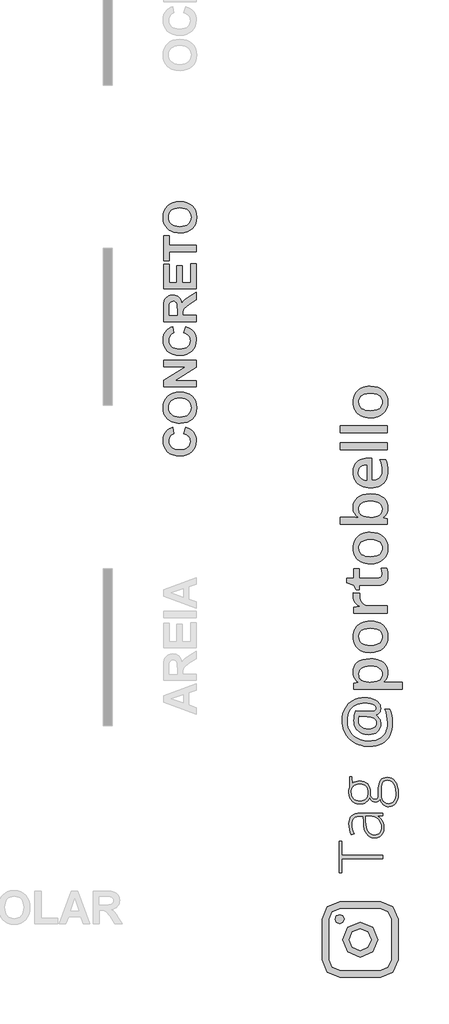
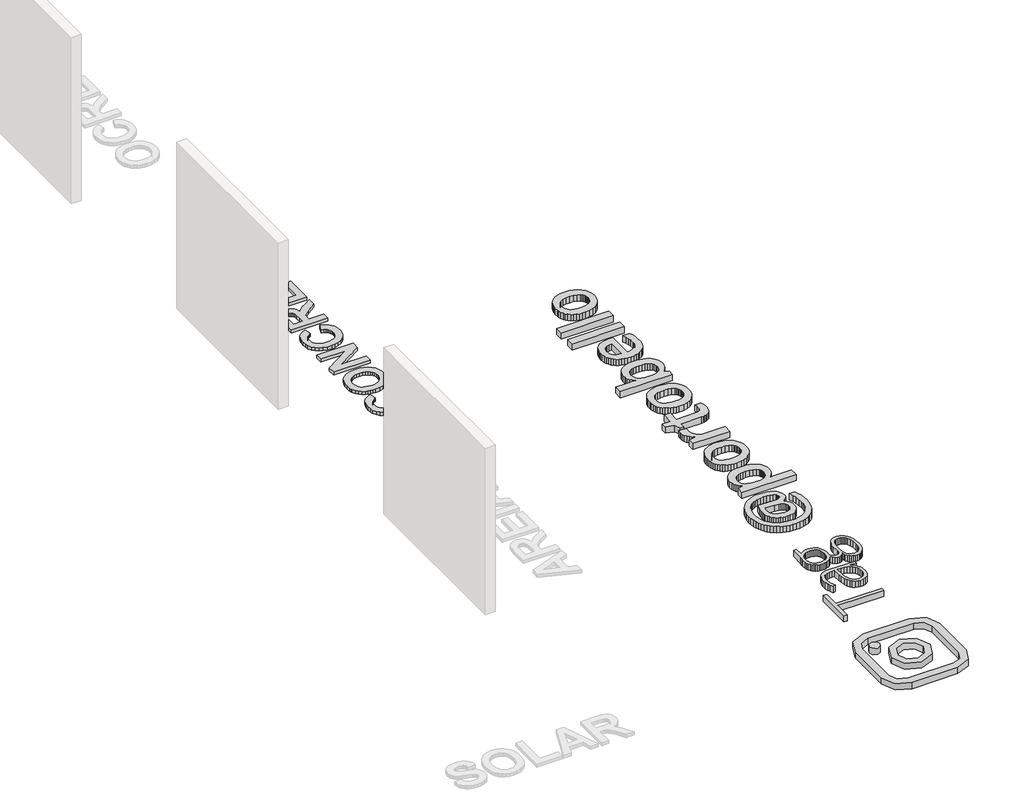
# One storey, part 3 of 6: 4 proxies.
"""IFC4 building model written with IfcOpenShell, lengths in millimetres."""

from ifc_helpers import new_model, si_unit, origin, origin_with_axes, place, context, project, spatial, polyline, outline, extrude, transform, mapped, element, save
from components import generic_models_d67f6705

model = new_model("IFC4")

# Units and contexts
model_context = context("Model", 3, world=origin())
ifc_project = project(units=[si_unit("LENGTHUNIT", "METRE", prefix="MILLI")], contexts=[model_context])

# Site, building, storey
site = spatial("IfcSite", under=ifc_project)
building = spatial("IfcBuilding", under=site)
storey = spatial("IfcBuildingStorey", under=building, Name="PORTOBELLO - SHOWROOM", Elevation=0.0)

# Proxies
placement = place(None, origin())
generic_models_shape = generic_models_d67f6705(model_context)
element("IfcBuildingElementProxy", 1, Name="Blks_Instagram1 : Único 2", ObjectType="Blks_Instagram1 : Único 2", at=placement, inside=storey, context=model_context, shape_type="MappedRepresentation", body=[
    mapped(generic_models_shape, transform((-14569.4048077, -12968.2161352, 0.0), x_axis=(-1.0, 0.0, 0.0), y_axis=(0.0, -1.0, 0.0), z_axis=(0.0, 0.0, 1.0))),
])
element("IfcBuildingElementProxy", 2, Name="550mm Arial", ObjectType="550mm Arial", at=placement, inside=storey, context=model_context, shape_type="SweptSolid", body=[
    extrude(outline(polyline([(-17597.170101, -4281.3912986), (-17561.5419949, -4174.5069805), (-17519.2814595, -4189.2679414), (-17482.8226689, -4208.2214675), (-17452.165623, -4231.3675589), (-17427.310322, -4258.7062154), (-17408.100197, -4290.1243597), (-17394.3786791, -4325.5089142), (-17386.1457683, -4364.859879), (-17383.4014648, -4408.177254), (-17388.0898313, -4461.6976975), (-17402.1549307, -4510.2253351), (-17425.5967632, -4553.7601668), (-17458.4153286, -4592.3021926), (-17499.3667747, -4623.8421126), (-17547.2072491, -4646.3706269), (-17601.9367519, -4659.8877355), (-17663.5552829, -4664.3934384), (-17728.5313454, -4659.8485933), (-17785.8181389, -4646.2140581), (-17835.4156635, -4623.4898328), (-17877.3239191, -4591.6759173), (-17910.6295875, -4552.4510774), (-17934.4193507, -4507.4940789), (-17948.6932086, -4456.8049217), (-17953.4511613, -4400.3836058), (-17949.5282424, -4351.0470293), (-17937.7594856, -4306.5814829), (-17918.1448911, -4266.9869666), (-17890.6844588, -4232.2634805), (-17870.1478479, -4214.1971777), (-17845.5578441, -4198.5489934), (-17816.9144473, -4185.3189277), (-17784.2176576, -4174.5069805), (-17766.4036046, -4281.3912986), (-17785.9790569, -4288.1281072), (-17803.3712439, -4297.7614391), (-17818.5801656, -4310.2912942), (-17831.6058221, -4325.7176727), (-17842.0480929, -4343.5012818), (-17849.5068578, -4363.1028289), (-17853.9821167, -4384.522314), (-17855.4738697, -4407.7597371), (-17852.7643592, -4439.521463), (-17844.6358277, -4468.1431141), (-17831.0882751, -4493.6246904), (-17812.1217016, -4515.966192), (-17787.0924352, -4534.1412231), (-17755.3568041, -4547.1233882), (-17716.9148084, -4554.9126873), (-17671.766448, -4557.5091203), (-17623.9781632, -4554.9909717), (-17583.6008028, -4547.4365259), (-17550.6343668, -4534.8457828), (-17525.0788552, -4517.2187426), (-17505.9600619, -4495.5557059), (-17492.3037811, -4470.8569738), (-17484.1100125, -4443.122546), (-17481.3787564, -4412.3524227), (-17483.1227591, -4389.4455337), (-17488.3547673, -4368.1826174), (-17497.0747811, -4348.5636738), (-17509.2828003, -4330.5887028), (-17525.2397731, -4314.6491265), (-17545.2066475, -4301.1363671), (-17569.1834234, -4290.0504244), (-17597.170101, -4281.3912986)])), origin_with_axes(), (0.0, 0.0, 1.0), 50.0),
    extrude(outline(polyline([(-17660.4934925, -4103.2507684), (-17701.5667144, -4101.6763819), (-17739.1954221, -4096.9532223), (-17773.3796156, -4089.0812897), (-17804.119295, -4078.0605841), (-17844.6706207, -4055.8452074), (-17880.8728124, -4026.7755955), (-17910.4991135, -3992.7305743), (-17931.3227673, -3955.5889696), (-17941.0039396, -3928.8504935), (-17947.9190628, -3900.1288124), (-17953.4511613, -3836.7358346), (-17948.6540664, -3778.8923519), (-17934.2627819, -3727.1376569), (-17910.2773077, -3681.4717495), (-17876.6976438, -3641.8946298), (-17834.5762806, -3609.9284946), (-17784.9657087, -3587.0955409), (-17727.8659279, -3573.3957687), (-17663.2769383, -3568.829178), (-17599.1272113, -3573.3609756), (-17542.3710121, -3586.9563686), (-17493.0083408, -3609.615357), (-17451.0391973, -3641.3379406), (-17417.5508652, -3680.6541123), (-17393.630628, -3726.0938647), (-17379.2784857, -3777.6571979), (-17374.4944383, -3835.3441117), (-17379.25674, -3893.6399044), (-17393.5436453, -3945.6381509), (-17417.3551542, -3991.3388514), (-17450.6912666, -4030.7420058), (-17492.3777163, -4062.4645894), (-17541.2402372, -4085.1235778), (-17597.2788293, -4098.7189708), (-17660.4934925, -4103.2507684)]), holes=[polyline([(-17664.3903166, -3996.3664503), (-17620.0030546, -3993.5264658), (-17581.3392531, -3985.0065122), (-17548.3989119, -3970.8065896), (-17521.1820311, -3950.9266979), (-17499.8712743, -3926.6715774), (-17484.6493051, -3899.3459682), (-17475.5161237, -3868.9498704), (-17472.4717298, -3835.483284), (-17475.494378, -3802.0514907), (-17484.5623225, -3771.7597721), (-17499.6755632, -3744.6081283), (-17520.8341003, -3720.5965593), (-17548.0379337, -3700.9602191), (-17581.2870634, -3686.9342619), (-17620.5814895, -3678.5186875), (-17665.9212118, -3675.7134961), (-17710.6303097, -3678.4447522), (-17749.285413, -3686.6385208), (-17781.8865218, -3700.2948016), (-17808.4336359, -3719.4135949), (-17829.0137382, -3743.0554875), (-17843.7138112, -3770.2810666), (-17852.5338551, -3801.0903321), (-17855.4738697, -3835.483284), (-17852.499062, -3869.9110291), (-17843.5746389, -3900.8246738), (-17828.7006005, -3928.2242182), (-17807.8769468, -3952.1096624), (-17781.0601863, -3971.4720071), (-17748.2068278, -3985.3022533), (-17709.3168712, -3993.6004011), (-17664.3903166, -3996.3664503)])]), origin_with_axes(), (0.0, 0.0, 1.0), 50.0),
    extrude(outline(polyline([(-17383.4014648, -3479.7589129), (-17944.5441347, -3479.7589129), (-17944.5441347, -3367.7252201), (-17566.8305419, -3132.3848791), (-17944.5441347, -3132.3848791), (-17944.5441347, -3025.500561), (-17383.4014648, -3025.500561), (-17383.4014648, -3141.013561), (-17755.548166, -3372.8745948), (-17383.4014648, -3372.8745948), (-17383.4014648, -3479.7589129)])), origin_with_axes(), (0.0, 0.0, 1.0), 50.0),
    extrude(outline(polyline([(-17597.170101, -2553.4281561), (-17561.5419949, -2446.543838), (-17519.2814595, -2461.3047989), (-17482.8226689, -2480.2583251), (-17452.165623, -2503.4044164), (-17427.310322, -2530.743073), (-17408.100197, -2562.1612172), (-17394.3786791, -2597.5457718), (-17386.1457683, -2636.8967365), (-17383.4014648, -2680.2141115), (-17388.0898313, -2733.734555), (-17402.1549307, -2782.2621926), (-17425.5967632, -2825.7970243), (-17458.4153286, -2864.3390501), (-17499.3667747, -2895.8789702), (-17547.2072491, -2918.4074845), (-17601.9367519, -2931.9245931), (-17663.5552829, -2936.4302959), (-17728.5313454, -2931.8854509), (-17785.8181389, -2918.2509157), (-17835.4156635, -2895.5266903), (-17877.3239191, -2863.7127748), (-17910.6295875, -2824.487935), (-17934.4193507, -2779.5309364), (-17948.6932086, -2728.8417792), (-17953.4511613, -2672.4204634), (-17949.5282424, -2623.0838868), (-17937.7594856, -2578.6183404), (-17918.1448911, -2539.0238242), (-17890.6844588, -2504.300338), (-17870.1478479, -2486.2340352), (-17845.5578441, -2470.585851), (-17816.9144473, -2457.3557852), (-17784.2176576, -2446.543838), (-17766.4036046, -2553.4281561), (-17785.9790569, -2560.1649647), (-17803.3712439, -2569.7982966), (-17818.5801656, -2582.3281518), (-17831.6058221, -2597.7545302), (-17842.0480929, -2615.5381393), (-17849.5068578, -2635.1396864), (-17853.9821167, -2656.5591715), (-17855.4738697, -2679.7965947), (-17852.7643592, -2711.5583206), (-17844.6358277, -2740.1799716), (-17831.0882751, -2765.661548), (-17812.1217016, -2788.0030495), (-17787.0924352, -2806.1780807), (-17755.3568041, -2819.1602458), (-17716.9148084, -2826.9495448), (-17671.766448, -2829.5459778), (-17623.9781632, -2827.0278292), (-17583.6008028, -2819.4733834), (-17550.6343668, -2806.8826404), (-17525.0788552, -2789.2556001), (-17505.9600619, -2767.5925635), (-17492.3037811, -2742.8938313), (-17484.1100125, -2715.1594035), (-17481.3787564, -2684.3892802), (-17483.1227591, -2661.4823912), (-17488.3547673, -2640.2194749), (-17497.0747811, -2620.6005313), (-17509.2828003, -2602.6255603), (-17525.2397731, -2586.6859841), (-17545.2066475, -2573.1732246), (-17569.1834234, -2562.087282), (-17597.170101, -2553.4281561)])), origin_with_axes(), (0.0, 0.0, 1.0), 50.0),
    extrude(outline(polyline([(-17383.4014648, -2357.4735729), (-17944.5441347, -2357.4735729), (-17944.5441347, -2121.4373705), (-17940.7516899, -2044.5446807), (-17929.3743552, -1992.0071415), (-17920.3107599, -1972.8361587), (-17908.2897534, -1955.6831741), (-17893.3113358, -1940.5481876), (-17875.375507, -1927.4311994), (-17855.256413, -1916.8367089), (-17833.7281995, -1909.2692156), (-17810.7908666, -1904.7287197), (-17786.4444142, -1903.2152211), (-17756.0961569, -1905.4028355), (-17728.5139489, -1911.9656787), (-17703.6977901, -1922.9037508), (-17681.6476805, -1938.2170518), (-17662.8942145, -1957.888185), (-17647.9679865, -1981.899754), (-17636.8689964, -2010.2517588), (-17629.5972443, -2042.9441994), (-17607.2600919, -2011.943572), (-17582.8353552, -1986.8577668), (-17547.4508006, -1960.9021349), (-17492.2341949, -1927.2920271), (-17383.4014648, -1858.6800885), (-17383.4014648, -1983.5176319), (-17511.5791431, -2064.7942488), (-17587.6367991, -2128.6047434), (-17600.8407701, -2146.3144172), (-17609.1389178, -2165.0678831), (-17613.5228449, -2189.9623264), (-17614.984154, -2226.0949319), (-17614.984154, -2250.5892548), (-17383.4014648, -2250.5892548), (-17383.4014648, -2357.4735729)]), holes=[polyline([(-17712.9614455, -2250.5892548), (-17712.9614455, -2162.4931958), (-17714.5793234, -2092.9592408), (-17719.432957, -2055.5392916), (-17728.2356043, -2036.507481), (-17741.7005233, -2022.1379422), (-17759.4623867, -2013.1091399), (-17781.1558672, -2010.0995391), (-17805.1804837, -2014.0659494), (-17824.0905185, -2025.9651801), (-17837.4336617, -2045.1013699), (-17844.7576034, -2070.7786572), (-17846.5668432, -2157.6221657), (-17846.5668432, -2250.5892548), (-17712.9614455, -2250.5892548)])]), origin_with_axes(), (0.0, 0.0, 1.0), 50.0),
    extrude(outline(polyline([(-17383.4014648, -1796.330903), (-17944.5441347, -1796.330903), (-17944.5441347, -1377.7006571), (-17846.5668432, -1377.7006571), (-17846.5668432, -1689.4465849), (-17721.8684721, -1689.4465849), (-17721.8684721, -1395.5147101), (-17623.8911805, -1395.5147101), (-17623.8911805, -1689.4465849), (-17481.3787564, -1689.4465849), (-17481.3787564, -1368.7936306), (-17383.4014648, -1368.7936306), (-17383.4014648, -1796.330903)])), origin_with_axes(), (0.0, 0.0, 1.0), 50.0),
    extrude(outline(polyline([(-17383.4014648, -1155.0249944), (-17846.5668432, -1155.0249944), (-17846.5668432, -1315.3514716), (-17944.5441347, -1315.3514716), (-17944.5441347, -887.8141992), (-17846.5668432, -887.8141992), (-17846.5668432, -1048.1406763), (-17383.4014648, -1048.1406763), (-17383.4014648, -1155.0249944)])), origin_with_axes(), (0.0, 0.0, 1.0), 50.0),
    extrude(outline(polyline([(-17660.4934925, -834.3720401), (-17701.5667144, -832.7976536), (-17739.1954221, -828.0744941), (-17773.3796156, -820.2025615), (-17804.119295, -809.1818558), (-17844.6706207, -786.9664791), (-17880.8728124, -757.8968672), (-17910.4991135, -723.851846), (-17931.3227673, -686.7102413), (-17941.0039396, -659.9717653), (-17947.9190628, -631.2500841), (-17953.4511613, -567.8571064), (-17948.6540664, -510.0136237), (-17934.2627819, -458.2589286), (-17910.2773077, -412.5930212), (-17876.6976438, -373.0159015), (-17834.5762806, -341.0497663), (-17784.9657087, -318.2168126), (-17727.8659279, -304.5170404), (-17663.2769383, -299.9504497), (-17599.1272113, -304.4822474), (-17542.3710121, -318.0776404), (-17493.0083408, -340.7366287), (-17451.0391973, -372.4592124), (-17417.5508652, -411.775384), (-17393.630628, -457.2151365), (-17379.2784857, -508.7784696), (-17374.4944383, -566.4653835), (-17379.25674, -624.7611761), (-17393.5436453, -676.7594226), (-17417.3551542, -722.4601231), (-17450.6912666, -761.8632775), (-17492.3777163, -793.5858611), (-17541.2402372, -816.2448495), (-17597.2788293, -829.8402425), (-17660.4934925, -834.3720401)]), holes=[polyline([(-17664.3903166, -727.4877221), (-17620.0030546, -724.6477375), (-17581.3392531, -716.1277839), (-17548.3989119, -701.9278613), (-17521.1820311, -682.0479696), (-17499.8712743, -657.7928491), (-17484.6493051, -630.46724), (-17475.5161237, -600.0711422), (-17472.4717298, -566.6045558), (-17475.494378, -533.1727624), (-17484.5623225, -502.8810439), (-17499.6755632, -475.7294001), (-17520.8341003, -451.717831), (-17548.0379337, -432.0814909), (-17581.2870634, -418.0555336), (-17620.5814895, -409.6399592), (-17665.9212118, -406.8347678), (-17710.6303097, -409.566024), (-17749.285413, -417.7597925), (-17781.8865218, -431.4160734), (-17808.4336359, -450.5348666), (-17829.0137382, -474.1767592), (-17843.7138112, -501.4023383), (-17852.5338551, -532.2116038), (-17855.4738697, -566.6045558), (-17852.499062, -601.0323008), (-17843.5746389, -631.9459455), (-17828.7006005, -659.34549), (-17807.8769468, -683.2309341), (-17781.0601863, -702.5932788), (-17748.2068278, -716.4235251), (-17709.3168712, -724.7216728), (-17664.3903166, -727.4877221)])]), origin_with_axes(), (0.0, 0.0, 1.0), 50.0),
])
element("IfcBuildingElementProxy", 3, Name="80mm OpenSans Bold", ObjectType="80mm OpenSans Bold", at=placement, inside=storey, context=model_context, shape_type="SweptSolid", body=[
    extrude(outline(polyline([(-14488.1035761, -8814.5685124), (-14437.8970063, -8817.4228655), (-14388.7119945, -8825.985925), (-14342.4113817, -8840.3778741), (-14300.8580089, -8860.7188961), (-14265.6142588, -8886.9488993), (-14238.2425143, -8919.0077922), (-14227.9893773, -8937.2981868), (-14220.665708, -8957.1960329), (-14214.8067726, -9001.8140796), (-14220.6356622, -9041.6848864), (-14227.9217742, -9058.8936314), (-14238.122331, -9074.284604), (-14264.2021051, -9098.2311248), (-14295.8103106, -9112.1423407), (-14295.8103106, -9118.872605), (-14264.6527925, -9143.5101796), (-14238.4828809, -9176.0798514), (-14228.1245835, -9195.3692696), (-14220.7257996, -9216.7018038), (-14216.2865293, -9240.0774539), (-14214.8067726, -9265.4962199), (-14218.4047598, -9307.0495927), (-14229.1987217, -9343.4951757), (-14247.188658, -9374.8329688), (-14272.3745689, -9401.062972), (-14303.4795069, -9421.7795668), (-14339.2265245, -9436.5771345), (-14379.6156217, -9445.4556751), (-14424.6467985, -9448.4151887), (-14460.3637703, -9446.6049278), (-14493.9625115, -9441.1741454), (-14525.4430223, -9432.1228413), (-14554.8053026, -9419.4510156), (-14581.598665, -9403.4215691), (-14605.3724222, -9384.297403), (-14626.1265743, -9362.0785171), (-14643.8611211, -9336.7649114), (-14658.0577724, -9308.7396703), (-14668.1982375, -9278.3858778), (-14674.2825166, -9245.7035342), (-14676.3106097, -9210.6926392), (-14674.1473104, -9162.3489105), (-14667.6574127, -9113.94509), (-14649.1491859, -9037.3883337), (-14424.1660653, -9047.7240968), (-14397.0046416, -9049.1662962), (-14381.3808138, -9049.4066628), (-14337.0932711, -9045.3805226), (-14321.5746036, -9040.3478473), (-14310.4726721, -9033.3021018), (-14297.1323268, -9015.815433), (-14292.6855451, -8995.5645485), (-14294.3455768, -8981.5932409), (-14299.3256719, -8968.7636746), (-14307.6258304, -8957.0758496), (-14319.2460524, -8946.5297658), (-14350.2533414, -8928.9830053), (-14390.154194, -8916.2435765), (-14436.8754484, -8908.4917542), (-14488.3439427, -8905.9078135), (-14535.1252887, -8908.2889449), (-14578.3612276, -8915.4323393), (-14618.0517594, -8927.3379965), (-14654.1968842, -8944.0059167), (-14686.5261894, -8964.8201604), (-14714.7692628, -8989.1647883), (-14738.9261043, -9017.0398003), (-14758.9967138, -9048.4451965), (-14774.7707708, -9082.772549), (-14786.0379543, -9119.4134298), (-14792.7982644, -9158.367839), (-14795.0517011, -9199.6357765), (-14793.3015319, -9241.9027376), (-14788.0510244, -9281.6909183), (-14779.3001785, -9319.0003187), (-14767.0489943, -9353.8309387), (-14751.6354873, -9386.0926409), (-14733.3976729, -9415.6952877), (-14712.3355511, -9442.6388792), (-14688.4491221, -9466.9234155), (-14661.9787522, -9488.4662704), (-14633.1648082, -9507.1848179), (-14602.0072901, -9523.0790581), (-14568.5061977, -9536.148991), (-14532.954478, -9546.3495478), (-14495.6450776, -9553.6356599), (-14415.753235, -9559.4645495), (-14366.5907575, -9557.2261357), (-14321.2591225, -9550.5108943), (-14279.7583299, -9539.3188253), (-14242.0883796, -9523.6499288), (-14208.4971498, -9503.6243879), (-14179.2325185, -9479.3623861), (-14154.2944856, -9450.8639232), (-14133.6830512, -9418.1289994), (-14117.5409329, -9381.3529123), (-14106.0108485, -9340.73096), (-14099.0927978, -9296.2631424), (-14096.7867809, -9247.9494594), (-14100.2120047, -9185.2738732), (-14110.4876761, -9122.7184703), (-14125.5706791, -9063.1676496), (-14143.4178978, -9009.5058102), (-14060.0106939, -9009.5058102), (-14041.7428337, -9060.4635256), (-14027.3208387, -9117.1900389), (-14017.9465421, -9179.1445254), (-14014.8217765, -9245.7861602), (-14017.78129, -9307.5228144), (-14026.6598306, -9364.6173891), (-14041.4573983, -9417.0698841), (-14062.1739931, -9464.8802995), (-14088.4715995, -9507.7106198), (-14120.0122019, -9545.2228295), (-14156.7958003, -9577.4169285), (-14198.8223949, -9604.292917), (-14245.671344, -9625.4827335), (-14296.9220061, -9640.6183167), (-14352.5743812, -9649.6996666), (-14412.6284694, -9652.7267832), (-14461.6482292, -9650.7662933), (-14508.7150105, -9644.8848235), (-14553.8288133, -9635.0823738), (-14596.9896377, -9621.3589443), (-14637.8219108, -9603.9398786), (-14675.9500598, -9583.0505203), (-14711.3740848, -9558.6908695), (-14744.0939858, -9530.8609262), (-14773.7116555, -9499.7634997), (-14799.8289869, -9465.6013993), (-14822.44598, -9428.3746249), (-14841.5626347, -9388.0831766), (-14856.7583095, -9344.967421), (-14867.612363, -9299.2677246), (-14874.1247951, -9250.9840875), (-14876.2956058, -9200.1165096), (-14873.3511151, -9145.4631581), (-14864.5176433, -9093.9946638), (-14849.7951901, -9045.7110266), (-14829.1837557, -9000.6122467), (-14803.1415389, -8959.4494696), (-14772.1267384, -8922.9738408), (-14736.1393542, -8891.1853603), (-14695.1793864, -8864.0840282), (-14649.6524535, -8842.42099), (-14599.9641741, -8826.9473913), (-14546.1145483, -8817.6632321), (-14488.1035761, -8814.5685124)]), holes=[polyline([(-14422.0027661, -9350.1052567), (-14390.6199043, -9348.4827823), (-14363.7739617, -9343.615359), (-14341.4649383, -9335.5029868), (-14323.6928341, -9324.1456659), (-14310.1271452, -9309.9940834), (-14300.4373673, -9293.4989267), (-14294.6235006, -9274.6601958), (-14292.6855451, -9253.4778908), (-14295.4873181, -9227.0000095), (-14303.892637, -9204.5332456), (-14317.9015018, -9186.077599), (-14337.5139126, -9171.6330697), (-14361.7083113, -9160.4935809), (-14389.4631401, -9151.9530558), (-14455.6540876, -9142.6688966), (-14589.0575405, -9136.4193654), (-14595.066705, -9168.027571), (-14597.4703708, -9206.8467739), (-14595.9004766, -9231.5219058), (-14591.1907939, -9253.6281199), (-14583.3413227, -9273.1654161), (-14572.352063, -9290.1337945), (-14543.4780274, -9317.2351266), (-14507.0925361, -9335.8034451), (-14465.749484, -9346.5298038), (-14422.0027661, -9350.1052567)])]), origin_with_axes(), (0.0, 0.0, 1.0), 100.0),
    extrude(outline(polyline([(-14691.6940709, -8374.457301), (-14686.9918997, -8325.8957401), (-14672.8853859, -8282.3668544), (-14649.3745296, -8243.870644), (-14616.4593308, -8210.4071089), (-14574.2599728, -8183.3283112), (-14522.8966388, -8163.9863128), (-14462.3693289, -8152.3811138), (-14392.6780431, -8148.5127141), (-14345.5737045, -8150.307952), (-14302.3302542, -8155.6936658), (-14262.947692, -8164.6698553), (-14227.4260181, -8177.2365207), (-14195.8929272, -8193.0256005), (-14168.4761139, -8211.6690335), (-14145.1755784, -8233.1668197), (-14125.9913206, -8257.518959), (-14111.0059665, -8284.3573901), (-14100.3021421, -8313.3140518), (-14093.8798475, -8344.3889439), (-14091.7390827, -8377.5820666), (-14094.5934358, -8418.2340648), (-14103.1564953, -8453.1773566), (-14116.3165657, -8482.9527669), (-14132.9619515, -8508.1011205), (-14152.1612322, -8529.1331965), (-14172.9829873, -8546.5597736), (-14172.9829873, -8553.7707711), (-14126.8326036, -8548.8432562), (-14080.6822199, -8546.5597736), (-13845.6037029, -8546.5597736), (-13845.6037029, -8668.9063638), (-14676.3106097, -8668.9063638), (-14676.3106097, -8569.3945989), (-14601.5566027, -8552.3285716), (-14601.5566027, -8546.5597736), (-14624.9622986, -8528.7125549), (-14646.6253368, -8507.3800208), (-14665.2537469, -8481.8410715), (-14679.5555585, -8451.3746072), (-14688.6594428, -8415.6801698), (-14691.6940709, -8374.457301)]), holes=[polyline([(-14592.182306, -8407.1471562), (-14587.1346078, -8452.3961652), (-14580.8249851, -8471.2799648), (-14571.9915132, -8487.6699611), (-14560.6341922, -8501.7839863), (-14546.7530221, -8513.8398727), (-14511.4191345, -8531.7772289), (-14465.8696673, -8542.3834043), (-14409.984437, -8546.5597736), (-14392.6780431, -8546.5597736), (-14333.1272225, -8543.2547331), (-14283.3112484, -8533.3396116), (-14243.7709457, -8515.7027137), (-14228.0569804, -8503.5717128), (-14215.0471392, -8489.2323439), (-14204.8465823, -8472.4141946), (-14197.5604703, -8452.8468525), (-14193.1888031, -8430.5303177), (-14191.7315807, -8405.4645901), (-14193.2714291, -8384.1771247), (-14197.8909744, -8364.7825461), (-14205.5902164, -8347.2808544), (-14216.3691554, -8331.6720495), (-14246.264749, -8306.0730085), (-14286.6763805, -8287.9253316), (-14336.432263, -8277.1088354), (-14394.3606092, -8273.5033367), (-14438.7232665, -8275.5539641), (-14477.8279047, -8281.7058463), (-14511.674524, -8291.9589833), (-14540.2631244, -8306.3133751), (-14562.9777664, -8324.9192508), (-14579.2025106, -8347.9268396), (-14588.9373572, -8375.3361414), (-14592.182306, -8407.1471562)])]), origin_with_axes(), (0.0, 0.0, 1.0), 100.0),
    extrude(outline(polyline([(-14392.6780431, -7499.5229432), (-14324.6242546, -7504.1800457), (-14264.6828383, -7518.1513533), (-14213.1542523, -7541.0462702), (-14170.3389549, -7572.4742008), (-14136.4773127, -7611.8342285), (-14111.8096923, -7658.5254371), (-14096.7567351, -7712.097139), (-14091.7390827, -7772.098647), (-14096.7567351, -7828.7350228), (-14111.8096923, -7880.3837921), (-14136.4773127, -7926.2637634), (-14170.3389549, -7965.5937454), (-14213.1542523, -7997.5625007), (-14264.6828383, -8021.3587923), (-14324.6242546, -8036.1413371), (-14392.6780431, -8041.068852), (-14438.7007321, -8039.0107132), (-14481.1028994, -8032.8362966), (-14519.8845451, -8022.5456023), (-14555.0456692, -8008.1386303), (-14586.4135081, -7989.9083274), (-14613.8152984, -7968.1476403), (-14637.2510401, -7942.856569), (-14656.7207333, -7914.0351135), (-14672.0215685, -7881.9987551), (-14682.9507365, -7847.0629747), (-14689.5082373, -7809.2277724), (-14691.6940709, -7768.4931483), (-14689.5082373, -7729.9969379), (-14682.9507365, -7693.8292788), (-14672.0215685, -7659.9901709), (-14656.7207333, -7628.4796143), (-14637.2360172, -7599.7933651), (-14613.7552068, -7574.4271792), (-14586.2783019, -7552.3810568), (-14554.8053026, -7533.6549978), (-14519.569064, -7518.7222239), (-14480.8024412, -7508.0559568), (-14438.5054342, -7501.6561966), (-14392.6780431, -7499.5229432)]), holes=[polyline([(-14392.6780431, -7915.5974963), (-14333.8182764, -7911.7816768), (-14284.1525314, -7900.3342184), (-14244.3718621, -7880.8344794), (-14228.4475761, -7867.9072642), (-14215.1673224, -7852.8618185), (-14204.7038647, -7835.6004933), (-14197.2299663, -7816.0256398), (-14192.7456272, -7794.1372579), (-14191.2508475, -7769.9353477), (-14192.7456272, -7745.7334375), (-14197.2299663, -7723.8450557), (-14204.7038647, -7704.2702022), (-14215.1673224, -7687.008877), (-14228.4475761, -7671.9784542), (-14244.3718621, -7659.0963077), (-14284.1525314, -7639.7768437), (-14333.8182764, -7628.5096602), (-14392.6780431, -7624.7539323), (-14451.5378098, -7628.5096602), (-14500.7228217, -7639.7768437), (-14539.812437, -7659.0963077), (-14555.4137305, -7671.9784542), (-14568.3860144, -7687.008877), (-14578.5865713, -7704.300248), (-14585.8726833, -7723.965239), (-14590.2443505, -7746.0038499), (-14591.7015729, -7770.4160809), (-14588.4866698, -7805.7124112), (-14578.8419608, -7835.8859286), (-14562.7674456, -7860.9366333), (-14540.2631244, -7880.8645253), (-14511.7496386, -7896.0602001), (-14477.6476298, -7906.9142536), (-14437.957098, -7913.4266856), (-14392.6780431, -7915.5974963)])]), origin_with_axes(), (0.0, 0.0, 1.0), 100.0),
    extrude(outline(polyline([(-14691.6940709, -7070.4685946), (-14690.1316881, -7038.8603891), (-14685.925273, -7009.4154828), (-14571.9915132, -7020.7127122), (-14576.6786615, -7047.3934028), (-14578.2410443, -7075.7566594), (-14575.5970119, -7107.4850482), (-14567.6649147, -7137.7712375), (-14554.3546152, -7165.653761), (-14535.575976, -7190.1711524), (-14511.3890887, -7210.5422202), (-14481.854045, -7225.9857731), (-14447.0609823, -7235.7206196), (-14407.100038, -7238.9655685), (-14107.1225439, -7238.9655685), (-14107.1225439, -7361.3121586), (-14676.3106097, -7361.3121586), (-14676.3106097, -7265.8866256), (-14579.9236104, -7249.3013315), (-14579.9236104, -7243.5325335), (-14609.1581959, -7224.3933445), (-14635.8088406, -7201.1078318), (-14658.6436659, -7173.8562706), (-14676.430793, -7142.8189357), (-14687.8782514, -7108.2662396), (-14691.6940709, -7070.4685946)])), origin_with_axes(), (0.0, 0.0, 1.0), 100.0),
    extrude(outline(polyline([(-14190.2893812, -6686.1224303), (-14194.6159797, -6639.0105802), (-14205.1921093, -6596.4656952), (-14112.8913419, -6596.4656952), (-14097.9886138, -6648.8656101), (-14093.3014655, -6681.6756485), (-14091.7390827, -6715.6875198), (-14095.8253146, -6761.9881327), (-14108.0840102, -6803.3011389), (-14117.7287193, -6821.7117168), (-14130.3179191, -6838.1242475), (-14145.8516094, -6852.5387309), (-14164.3297904, -6864.9551672), (-14186.2031493, -6874.9454032), (-14211.9223736, -6882.0812861), (-14241.4874632, -6886.3628158), (-14274.898418, -6887.7899924), (-14583.5291091, -6887.7899924), (-14583.5291091, -6966.1494981), (-14637.8519566, -6966.1494981), (-14680.8775747, -6882.0211945), (-14799.3782996, -6842.1203419), (-14799.3782996, -6765.4434023), (-14676.3106097, -6765.4434023), (-14676.3106097, -6601.2730269), (-14583.5291091, -6601.2730269), (-14583.5291091, -6765.4434023), (-14276.3406175, -6765.4434023), (-14238.3927434, -6760.0051084), (-14223.5876643, -6753.207241), (-14211.5618237, -6743.6902266), (-14202.2551301, -6731.9347985), (-14195.6074918, -6718.4216897), (-14190.2893812, -6686.1224303)])), origin_with_axes(), (0.0, 0.0, 1.0), 100.0),
    extrude(outline(polyline([(-14392.6780431, -5976.5602807), (-14324.6242546, -5981.2173832), (-14264.6828383, -5995.1886908), (-14213.1542523, -6018.0836077), (-14170.3389549, -6049.5115383), (-14136.4773127, -6088.8715661), (-14111.8096923, -6135.5627746), (-14096.7567351, -6189.1344765), (-14091.7390827, -6249.1359845), (-14096.7567351, -6305.7723603), (-14111.8096923, -6357.4211296), (-14136.4773127, -6403.3011009), (-14170.3389549, -6442.6310829), (-14213.1542523, -6474.5998383), (-14264.6828383, -6498.3961299), (-14324.6242546, -6513.1786746), (-14392.6780431, -6518.1061896), (-14438.7007321, -6516.0480507), (-14481.1028994, -6509.8736341), (-14519.8845451, -6499.5829399), (-14555.0456692, -6485.1759679), (-14586.4135081, -6466.9456649), (-14613.8152984, -6445.1849778), (-14637.2510401, -6419.8939065), (-14656.7207333, -6391.0724511), (-14672.0215685, -6359.0360926), (-14682.9507365, -6324.1003122), (-14689.5082373, -6286.2651099), (-14691.6940709, -6245.5304858), (-14689.5082373, -6207.0342754), (-14682.9507365, -6170.8666163), (-14672.0215685, -6137.0275084), (-14656.7207333, -6105.5169519), (-14637.2360172, -6076.8307026), (-14613.7552068, -6051.4645168), (-14586.2783019, -6029.4183943), (-14554.8053026, -6010.6923353), (-14519.569064, -5995.7595614), (-14480.8024412, -5985.0932944), (-14438.5054342, -5978.6935341), (-14392.6780431, -5976.5602807)]), holes=[polyline([(-14392.6780431, -6392.6348339), (-14333.8182764, -6388.8190144), (-14284.1525314, -6377.3715559), (-14244.3718621, -6357.871817), (-14228.4475761, -6344.9446017), (-14215.1673224, -6329.899156), (-14204.7038647, -6312.6378308), (-14197.2299663, -6293.0629773), (-14192.7456272, -6271.1745955), (-14191.2508475, -6246.9726853), (-14192.7456272, -6222.7707751), (-14197.2299663, -6200.8823932), (-14204.7038647, -6181.3075397), (-14215.1673224, -6164.0462145), (-14228.4475761, -6149.0157917), (-14244.3718621, -6136.1336452), (-14284.1525314, -6116.8141812), (-14333.8182764, -6105.5469977), (-14392.6780431, -6101.7912698), (-14451.5378098, -6105.5469977), (-14500.7228217, -6116.8141812), (-14539.812437, -6136.1336452), (-14555.4137305, -6149.0157917), (-14568.3860144, -6164.0462145), (-14578.5865713, -6181.3375855), (-14585.8726833, -6201.0025765), (-14590.2443505, -6223.0411875), (-14591.7015729, -6247.4534184), (-14588.4866698, -6282.7497487), (-14578.8419608, -6312.9232662), (-14562.7674456, -6337.9739709), (-14540.2631244, -6357.9018628), (-14511.7496386, -6373.0975376), (-14477.6476298, -6383.9515911), (-14437.957098, -6390.4640232), (-14392.6780431, -6392.6348339)])]), origin_with_axes(), (0.0, 0.0, 1.0), 100.0),
    extrude(outline(polyline([(-14907.0625282, -5716.4836392), (-14716.932562, -5716.4836392), (-14652.3941348, -5718.2863885), (-14602.9988022, -5721.771704), (-14602.9988022, -5716.4836392), (-14637.3712234, -5688.5710699), (-14665.9748467, -5651.4644788), (-14677.2270073, -5629.132921), (-14685.2642649, -5603.8418498), (-14690.0866194, -5575.5912649), (-14691.6940709, -5544.3811666), (-14686.9693653, -5495.8045827), (-14672.7952484, -5452.2306283), (-14649.1717203, -5413.6593033), (-14616.0987809, -5380.0906079), (-14573.7717282, -5352.9066498), (-14522.3858598, -5333.4895368), (-14461.941176, -5321.8392691), (-14392.4376765, -5317.9558465), (-14345.2432005, -5319.7360615), (-14301.9697043, -5325.0767065), (-14262.617188, -5333.9777815), (-14227.1856515, -5346.4392864), (-14195.757721, -5362.1232059), (-14168.4160223, -5380.6915243), (-14145.1605555, -5402.1442418), (-14125.9913206, -5426.4813582), (-14111.0059665, -5453.379881), (-14100.3021421, -5482.5168176), (-14093.8798475, -5513.892168), (-14091.7390827, -5547.5059321), (-14093.2413738, -5578.6183816), (-14097.7482472, -5606.5760196), (-14105.2597029, -5631.3788463), (-14115.7757409, -5653.0268616), (-14141.855515, -5688.8414823), (-14172.021521, -5716.002906), (-14172.021521, -5724.8964695), (-14107.1225439, -5747.0101951), (-14107.1225439, -5838.3494962), (-14907.0625282, -5838.3494962), (-14907.0625282, -5716.4836392)]), holes=[polyline([(-14592.6630392, -5576.5902885), (-14587.4050202, -5622.950993), (-14580.8324965, -5642.1427623), (-14571.6309633, -5658.6754762), (-14559.822955, -5672.8195473), (-14545.4310059, -5684.8453878), (-14508.8952854, -5702.5423774), (-14461.5731146, -5712.7579571), (-14403.0138061, -5716.4836392), (-14391.9569434, -5716.4836392), (-14346.1520866, -5714.5907523), (-14306.085982, -5708.9120918), (-14271.7586296, -5699.4476577), (-14243.1700292, -5686.1974499), (-14220.665708, -5667.9295896), (-14204.5911928, -5643.4121983), (-14194.9464837, -5612.6452758), (-14191.7315807, -5575.6288222), (-14194.9990639, -5545.5229078), (-14204.8015136, -5519.1426755), (-14221.1389297, -5496.4881251), (-14244.0113123, -5477.5592568), (-14272.9980197, -5462.6264829), (-14307.6784106, -5451.9602159), (-14348.0524849, -5445.5604556), (-14394.1202426, -5443.4272022), (-14440.4584127, -5445.5454327), (-14480.6822579, -5451.9001242), (-14514.7917781, -5462.4912767), (-14542.7869735, -5477.3188902), (-14564.6077522, -5496.2327357), (-14580.1940228, -5519.0825838), (-14589.5457851, -5545.8684348), (-14592.6630392, -5576.5902885)])]), origin_with_axes(), (0.0, 0.0, 1.0), 100.0),
    extrude(outline(polyline([(-14691.6940709, -4948.2720436), (-14689.733581, -4911.2931473), (-14683.8521112, -4877.0333979), (-14674.0496615, -4845.4927955), (-14660.326232, -4816.6713401), (-14643.0048152, -4790.7943753), (-14622.4084037, -4768.0872447), (-14598.5369976, -4748.5499485), (-14571.3905967, -4732.1824866), (-14541.1870334, -4719.2477599), (-14508.1441399, -4710.0086694), (-14472.2619161, -4704.4652151), (-14433.540362, -4702.617397), (-14368.6413849, -4702.617397), (-14368.6413849, -5085.5213619), (-14327.6363484, -5082.0060006), (-14291.6339413, -5073.3828495), (-14260.6341637, -5059.6519085), (-14234.6370156, -5040.8131776), (-14214.0781614, -5017.2722755), (-14199.3932655, -4989.4348208), (-14190.582328, -4957.3008134), (-14187.6453488, -4920.8702533), (-14190.2893812, -4868.6506134), (-14198.2214784, -4822.0795882), (-14211.3214571, -4777.6117705), (-14229.4691341, -4731.7017534), (-14130.6784689, -4731.7017534), (-14113.1918001, -4774.9376923), (-14101.1133794, -4819.0750059), (-14094.0826568, -4868.0797428), (-14091.7390827, -4925.9179515), (-14093.8122444, -4966.9304996), (-14100.0317297, -5005.3591068), (-14110.3975386, -5041.2037733), (-14124.909671, -5074.4644991), (-14143.5380811, -5104.6905968), (-14166.252723, -5131.431379), (-14193.0535969, -5154.6868458), (-14223.9407027, -5174.4569971), (-14258.8689716, -5190.2310541), (-14297.7933349, -5201.4982376), (-14340.7137927, -5208.2585477), (-14387.6303449, -5210.5119844), (-14434.3591107, -5208.4688685), (-14477.437309, -5202.3395206), (-14516.8649399, -5192.1239409), (-14552.6420033, -5177.8221293), (-14584.5732014, -5159.8321929), (-14612.4632364, -5138.552239), (-14636.3121082, -5113.9822674), (-14656.1198168, -5086.1222783), (-14671.683553, -5055.3778902), (-14682.8005074, -5022.1547217), (-14689.47068, -4986.4527729), (-14691.6940709, -4948.2720436)]), holes=[polyline([(-14600.1144032, -4948.2720436), (-14597.8158978, -4975.6287652), (-14590.9203815, -5000.251317), (-14579.4278543, -5022.1396988), (-14563.3383162, -5041.2939108), (-14542.8170193, -5057.2332198), (-14518.0292155, -5069.4768925), (-14488.974905, -5078.0249291), (-14455.6540876, -5082.8773295), (-14455.6540876, -4821.8392216), (-14495.5549401, -4825.6249953), (-14530.6484611, -4836.0208499), (-14559.7628633, -4853.2371063), (-14581.7263597, -4877.4840853), (-14595.5173924, -4909.062245), (-14600.1144032, -4948.2720436)])]), origin_with_axes(), (0.0, 0.0, 1.0), 100.0),
    extrude(outline(polyline([(-14107.1225439, -4439.1756233), (-14107.1225439, -4561.5222135), (-14907.0625282, -4561.5222135), (-14907.0625282, -4439.1756233), (-14107.1225439, -4439.1756233)])), origin_with_axes(), (0.0, 0.0, 1.0), 100.0),
    extrude(outline(polyline([(-14107.1225439, -4146.8898598), (-14107.1225439, -4269.23645), (-14907.0625282, -4269.23645), (-14907.0625282, -4146.8898598), (-14107.1225439, -4146.8898598)])), origin_with_axes(), (0.0, 0.0, 1.0), 100.0),
    extrude(outline(polyline([(-14392.6780431, -3469.0560991), (-14324.6242546, -3473.7132016), (-14264.6828383, -3487.6845091), (-14213.1542523, -3510.5794261), (-14170.3389549, -3542.0073566), (-14136.4773127, -3581.3673844), (-14111.8096923, -3628.0585929), (-14096.7567351, -3681.6302949), (-14091.7390827, -3741.6318028), (-14096.7567351, -3798.2681787), (-14111.8096923, -3849.916948), (-14136.4773127, -3895.7969193), (-14170.3389549, -3935.1269012), (-14213.1542523, -3967.0956566), (-14264.6828383, -3990.8919482), (-14324.6242546, -4005.674493), (-14392.6780431, -4010.6020079), (-14438.7007321, -4008.5438691), (-14481.1028994, -4002.3694525), (-14519.8845451, -3992.0787582), (-14555.0456692, -3977.6717862), (-14586.4135081, -3959.4414833), (-14613.8152984, -3937.6807962), (-14637.2510401, -3912.3897249), (-14656.7207333, -3883.5682694), (-14672.0215685, -3851.5319109), (-14682.9507365, -3816.5961306), (-14689.5082373, -3778.7609283), (-14691.6940709, -3738.0263041), (-14689.5082373, -3699.5300937), (-14682.9507365, -3663.3624346), (-14672.0215685, -3629.5233268), (-14656.7207333, -3598.0127702), (-14637.2360172, -3569.326521), (-14613.7552068, -3543.9603351), (-14586.2783019, -3521.9142127), (-14554.8053026, -3503.1881537), (-14519.569064, -3488.2553798), (-14480.8024412, -3477.5891127), (-14438.5054342, -3471.1893525), (-14392.6780431, -3469.0560991)]), holes=[polyline([(-14392.6780431, -3885.1306522), (-14333.8182764, -3881.3148327), (-14284.1525314, -3869.8673743), (-14244.3718621, -3850.3676353), (-14228.4475761, -3837.4404201), (-14215.1673224, -3822.3949743), (-14204.7038647, -3805.1336492), (-14197.2299663, -3785.5587957), (-14192.7456272, -3763.6704138), (-14191.2508475, -3739.4685036), (-14192.7456272, -3715.2665934), (-14197.2299663, -3693.3782115), (-14204.7038647, -3673.803358), (-14215.1673224, -3656.5420329), (-14228.4475761, -3641.5116101), (-14244.3718621, -3628.6294636), (-14284.1525314, -3609.3099996), (-14333.8182764, -3598.042816), (-14392.6780431, -3594.2870882), (-14451.5378098, -3598.042816), (-14500.7228217, -3609.3099996), (-14539.812437, -3628.6294636), (-14555.4137305, -3641.5116101), (-14568.3860144, -3656.5420329), (-14578.5865713, -3673.8334039), (-14585.8726833, -3693.4983948), (-14590.2443505, -3715.5370058), (-14591.7015729, -3739.9492368), (-14588.4866698, -3775.245567), (-14578.8419608, -3805.4190845), (-14562.7674456, -3830.4697892), (-14540.2631244, -3850.3976811), (-14511.7496386, -3865.593356), (-14477.6476298, -3876.4474094), (-14437.957098, -3882.9598415), (-14392.6780431, -3885.1306522)])]), origin_with_axes(), (0.0, 0.0, 1.0), 100.0),
])
element("IfcBuildingElementProxy", 4, Name="80mm OpenSans Light", ObjectType="80mm OpenSans Light", at=placement, inside=storey, context=model_context, shape_type="SweptSolid", body=[
    extrude(outline(polyline([(-14177.691823, -11522.5843897), (-14177.691823, -11576.426504), (-14883.4081072, -11576.426504), (-14883.4081072, -11822.0811507), (-14931.4814236, -11822.0811507), (-14931.4814236, -11276.9297431), (-14883.4081072, -11276.9297431), (-14883.4081072, -11522.5843897), (-14177.691823, -11522.5843897)])), origin_with_axes(), (0.0, 0.0, 1.0), 100.0),
    extrude(outline(polyline([(-14762.26335, -10983.2017801), (-14759.2888135, -10939.830635), (-14750.3652042, -10902.2583336), (-14735.4925219, -10870.4848761), (-14714.6707668, -10844.5102623), (-14687.344091, -10824.3194695), (-14652.9566469, -10809.8974746), (-14611.5084344, -10801.2442776), (-14562.9994537, -10798.3598786), (-14177.691823, -10798.3598786), (-14177.691823, -10838.7414644), (-14271.1944233, -10848.1157611), (-14271.1944233, -10851.2405266), (-14241.238738, -10871.2510446), (-14214.8284599, -10895.2276111), (-14192.8649635, -10924.0716009), (-14176.2496235, -10958.6843887), (-14165.7936772, -11000.327899), (-14162.3083617, -11050.2640564), (-14167.0556017, -11100.6509011), (-14181.2973217, -11143.1657403), (-14204.642926, -11177.3578865), (-14236.7018188, -11202.7766526), (-14276.9932671, -11218.5507095), (-14325.0365376, -11223.8087285), (-14366.3946126, -11219.4671071), (-14402.4946686, -11206.4422429), (-14433.3367057, -11184.734136), (-14458.9207237, -11154.3427863), (-14479.3669061, -11115.8240416), (-14494.7954361, -11069.7337495), (-14505.2063136, -11016.0719101), (-14510.5995388, -10954.8385234), (-14516.1279702, -10850.0386937), (-14557.2306557, -10850.0386937), (-14597.3944092, -10852.1794586), (-14631.3537004, -10858.6017532), (-14659.1085291, -10869.3055776), (-14680.6588955, -10884.2909316), (-14696.8010137, -10903.4526551), (-14708.3310982, -10926.6855875), (-14715.2491489, -10953.9897289), (-14717.5551658, -10985.3650793), (-14714.7909501, -11028.0301476), (-14706.498303, -11069.0126498), (-14692.9776828, -11109.5144188), (-14674.5295476, -11150.7372876), (-14718.0358989, -11167.3225817), (-14735.5826594, -11125.4387049), (-14749.7642877, -11080.5502457), (-14759.1385844, -11033.0177542), (-14762.26335, -10983.2017801)]), holes=[polyline([(-14475.0252847, -10850.5194269), (-14470.6986862, -10949.0697254), (-14466.0716295, -10999.569242), (-14457.7188908, -11043.6239296), (-14445.6404701, -11081.2337882), (-14429.8363673, -11112.3988178), (-14409.9760785, -11136.848606), (-14385.7290996, -11154.3127405), (-14357.0954305, -11164.7912212), (-14324.0750713, -11168.2840481), (-14297.3643349, -11166.1958634), (-14273.958639, -11159.9313094), (-14253.8579836, -11149.490386), (-14237.0623687, -11134.8730932), (-14223.8121609, -11116.5301184), (-14214.3477267, -11094.912149), (-14208.6690662, -11070.0191848), (-14206.7761794, -11041.851226), (-14210.2840292, -10998.2021571), (-14220.8075786, -10960.0364507), (-14238.3468276, -10927.3541071), (-14262.9017762, -10900.155126), (-14293.5259811, -10878.7099201), (-14329.2729986, -10863.2889016), (-14370.142829, -10853.8920705), (-14416.1354722, -10850.5194269), (-14475.0252847, -10850.5194269)])]), origin_with_axes(), (0.0, 0.0, 1.0), 100.0),
    extrude(outline(polyline([(-13916.1729819, -10461.8466641), (-13918.7794571, -10512.0006537), (-13926.5988824, -10556.2205933), (-13939.631258, -10594.5064829), (-13957.8765839, -10626.8583225), (-13980.7940352, -10652.5700353), (-14007.8427871, -10670.9355444), (-14039.0228396, -10681.9548499), (-14074.3341928, -10685.6279518), (-14102.2993423, -10683.3970494), (-14128.2664446, -10676.7043424), (-14152.2354997, -10665.5498307), (-14174.2065075, -10649.9335144), (-14193.0827957, -10630.4863556), (-14207.7676915, -10607.8393167), (-14218.2611951, -10581.9923977), (-14224.5633064, -10552.9455986), (-14238.5045682, -10575.1494616), (-14256.7724284, -10592.7262679), (-14278.8260623, -10604.1737263), (-14304.124645, -10607.9895458), (-14333.3592305, -10603.4526266), (-14360.4906085, -10589.8418689), (-14385.5788704, -10567.1572727), (-14408.6841081, -10535.3988381), (-14419.1475659, -10558.4965643), (-14432.7508121, -10578.9953269), (-14449.4938468, -10596.8951258), (-14469.37667, -10612.195961), (-14491.9185485, -10624.4471452), (-14516.6387492, -10633.1979911), (-14543.537272, -10638.4484986), (-14572.6141169, -10640.1986678), (-14600.5116633, -10638.6738423), (-14626.5163229, -10634.0993658), (-14650.6280956, -10626.4752383), (-14672.8469815, -10615.8014597), (-14692.9251026, -10602.3259082), (-14710.6145807, -10586.2964618), (-14725.9154159, -10567.7131205), (-14738.8276083, -10546.5758842), (-14749.0807453, -10523.132631), (-14756.4044146, -10497.6312389), (-14762.26335, -10440.4540383), (-14761.1817004, -10406.6825335), (-14757.8165682, -10378.4394602), (-14751.927587, -10355.1239017), (-14751.927587, -10173.1663993), (-14714.4304002, -10173.1663993), (-14706.7386696, -10289.2634583), (-14677.7444507, -10269.2829862), (-14646.5268408, -10255.0112204), (-14613.3262067, -10246.4481609), (-14578.3829149, -10243.5938078), (-14537.9262146, -10246.8988483), (-14501.8862502, -10256.8139698), (-14470.2630218, -10273.3391723), (-14443.0565293, -10296.4744558), (-14421.1831704, -10325.4987205), (-14405.5593426, -10359.6908668), (-14396.1850459, -10399.0508946), (-14393.0602803, -10443.5788039), (-14397.6272454, -10494.5365192), (-14378.0373689, -10522.2988594), (-14358.2071259, -10542.6098356), (-14335.9131255, -10555.0488062), (-14308.9319767, -10559.1951297), (-14292.1363618, -10556.611189), (-14278.7659706, -10548.8593667), (-14268.4602534, -10536.1800295), (-14260.8586603, -10518.813544), (-14256.1715119, -10496.940185), (-14254.6091292, -10470.7402276), (-14254.6091292, -10371.7091959), (-14252.2430206, -10328.4957913), (-14245.144695, -10290.675612), (-14233.3141523, -10258.2486578), (-14216.7513925, -10231.2149288), (-14195.576599, -10209.919952), (-14169.9099549, -10194.7092542), (-14139.7514603, -10185.5828355), (-14105.1011153, -10182.540696), (-14062.6764136, -10187.0926381), (-14025.2994101, -10200.7484646), (-13992.9701048, -10223.5081753), (-13965.6884978, -10255.3717703), (-13944.0254596, -10295.588104), (-13928.5518609, -10343.4060309), (-13919.2677017, -10398.8255509), (-13916.1729819, -10461.8466641)]), holes=[polyline([(-13960.1600664, -10458.2411653), (-13964.2763441, -10390.1873769), (-13976.6251773, -10334.572559), (-13996.9661993, -10291.3065743), (-14010.0436436, -10274.2705928), (-14025.0590435, -10260.2992852), (-14041.9898646, -10249.4151859), (-14060.8135726, -10241.6408293), (-14081.5301673, -10236.9762153), (-14104.1396489, -10235.421344), (-14138.4820243, -10239.9582632), (-14164.1111111, -10253.5690209), (-14182.1085589, -10275.4724257), (-14193.5560174, -10304.8872861), (-14199.6853652, -10341.0023651), (-14201.7284812, -10383.0064252), (-14201.7284812, -10477.4704919), (-14198.6037156, -10519.9853311), (-14189.2294189, -10557.6327469), (-14173.1248579, -10588.9104484), (-14149.8092995, -10612.3161443), (-14118.3212773, -10626.9184141), (-14077.6993249, -10631.7858374), (-14050.5904814, -10629.0141103), (-14026.9519303, -10620.6989288), (-14006.7836718, -10606.8402931), (-13990.0857059, -10587.4382031), (-13976.9932386, -10562.7330253), (-13967.6414763, -10532.9651265), (-13962.0304189, -10498.1345065), (-13960.1600664, -10458.2411653)]), polyline([(-14435.1244321, -10441.6558712), (-14437.3628459, -10408.718138), (-14444.0780873, -10379.8516138), (-14455.2701563, -10355.0562986), (-14470.9390528, -10334.3321924), (-14490.8594333, -10317.9797534), (-14514.805954, -10306.2994398), (-14542.778615, -10299.2912517), (-14574.7774162, -10296.9551889), (-14608.8118219, -10299.3513433), (-14638.3243312, -10306.5398064), (-14663.3149443, -10318.5205782), (-14683.783661, -10335.2936587), (-14699.7154585, -10356.3783148), (-14711.0953139, -10381.2938133), (-14717.9232271, -10410.0401542), (-14720.1991982, -10442.6173375), (-14717.7805094, -10474.2330545), (-14710.5244432, -10502.2582956), (-14698.4309996, -10526.693061), (-14681.5001785, -10547.5373505), (-14660.1826673, -10564.2052707), (-14634.9291533, -10576.1109279), (-14605.7396365, -10583.2543223), (-14572.6141169, -10585.6354537), (-14541.757057, -10583.3669941), (-14514.5655874, -10576.5616153), (-14491.0397082, -10565.2193172), (-14471.1794194, -10549.3400999), (-14455.4053625, -10528.9990779), (-14444.1381789, -10504.2713658), (-14437.3778688, -10475.1569635), (-14435.1244321, -10441.6558712)])]), origin_with_axes(), (0.0, 0.0, 1.0), 100.0),
])

save(model, "model.ifc")
